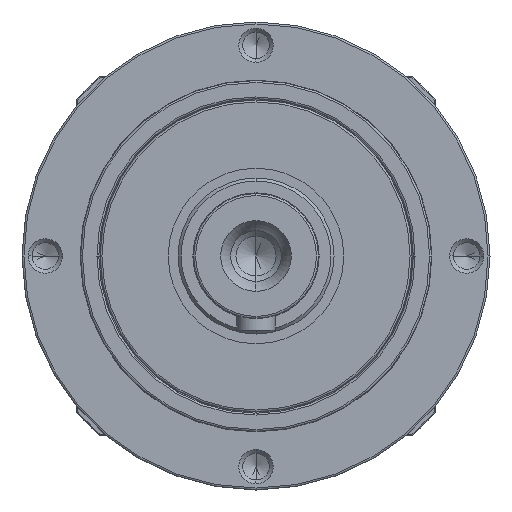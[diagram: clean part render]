
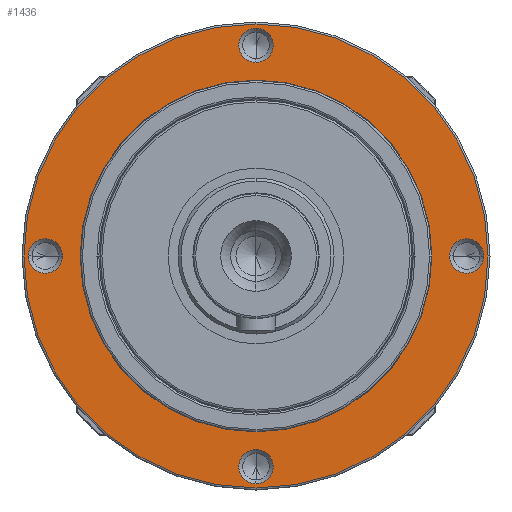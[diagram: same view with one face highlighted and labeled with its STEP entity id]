
A CAD part, left-side view. The second image highlights one B-rep face of the part: STEP entity #1436.
In plain terms, the highlighted planar face has unit normal (-1, 0, 0).
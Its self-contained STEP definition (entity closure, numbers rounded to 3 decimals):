
#252=CARTESIAN_POINT('',(7.,54.,0.));
#253=DIRECTION('',(1.,0.,0.));
#254=DIRECTION('',(0.,-1.,0.));
#255=AXIS2_PLACEMENT_3D('',#252,#253,#254);
#257=CARTESIAN_POINT('',(7.,54.,0.));
#258=DIRECTION('',(1.,0.,0.));
#259=DIRECTION('',(0.,1.,0.));
#260=AXIS2_PLACEMENT_3D('',#257,#258,#259);
#262=CARTESIAN_POINT('',(7.,0.,-54.));
#263=DIRECTION('',(1.,0.,0.));
#264=DIRECTION('',(0.,0.,-1.));
#265=AXIS2_PLACEMENT_3D('',#262,#263,#264);
#267=CARTESIAN_POINT('',(7.,0.,-54.));
#268=DIRECTION('',(1.,0.,0.));
#269=DIRECTION('',(0.,0.,1.));
#270=AXIS2_PLACEMENT_3D('',#267,#268,#269);
#272=CARTESIAN_POINT('',(7.,-54.,0.));
#273=DIRECTION('',(1.,0.,0.));
#274=DIRECTION('',(0.,-1.,0.));
#275=AXIS2_PLACEMENT_3D('',#272,#273,#274);
#277=CARTESIAN_POINT('',(7.,-54.,0.));
#278=DIRECTION('',(1.,0.,0.));
#279=DIRECTION('',(0.,1.,0.));
#280=AXIS2_PLACEMENT_3D('',#277,#278,#279);
#282=CARTESIAN_POINT('',(7.,0.,54.));
#283=DIRECTION('',(1.,0.,0.));
#284=DIRECTION('',(0.,0.,1.));
#285=AXIS2_PLACEMENT_3D('',#282,#283,#284);
#287=CARTESIAN_POINT('',(7.,0.,54.));
#288=DIRECTION('',(1.,0.,0.));
#289=DIRECTION('',(0.,0.,-1.));
#290=AXIS2_PLACEMENT_3D('',#287,#288,#289);
#292=CARTESIAN_POINT('',(7.,0.,0.));
#293=DIRECTION('',(1.,0.,0.));
#294=DIRECTION('',(0.,1.,0.));
#295=AXIS2_PLACEMENT_3D('',#292,#293,#294);
#297=CARTESIAN_POINT('',(7.,0.,0.));
#298=DIRECTION('',(1.,0.,0.));
#299=DIRECTION('',(0.,-1.,0.));
#300=AXIS2_PLACEMENT_3D('',#297,#298,#299);
#302=CARTESIAN_POINT('',(7.,0.,0.));
#303=DIRECTION('',(-1.,0.,0.));
#304=DIRECTION('',(0.,1.,0.));
#305=AXIS2_PLACEMENT_3D('',#302,#303,#304);
#307=CARTESIAN_POINT('',(7.,0.,0.));
#308=DIRECTION('',(-1.,0.,0.));
#309=DIRECTION('',(0.,-1.,0.));
#310=AXIS2_PLACEMENT_3D('',#307,#308,#309);
#901=CARTESIAN_POINT('',(7.,49.6,0.));
#902=CARTESIAN_POINT('',(7.,58.4,0.));
#903=VERTEX_POINT('',#901);
#904=VERTEX_POINT('',#902);
#905=CARTESIAN_POINT('',(7.,0.,-58.4));
#906=CARTESIAN_POINT('',(7.,0.,-49.6));
#907=VERTEX_POINT('',#905);
#908=VERTEX_POINT('',#906);
#909=CARTESIAN_POINT('',(7.,-58.4,0.));
#910=CARTESIAN_POINT('',(7.,-49.6,0.));
#911=VERTEX_POINT('',#909);
#912=VERTEX_POINT('',#910);
#913=CARTESIAN_POINT('',(7.,0.,
58.4));
#914=CARTESIAN_POINT('',(7.,0.,49.6));
#915=VERTEX_POINT('',#913);
#916=VERTEX_POINT('',#914);
#945=CARTESIAN_POINT('',(7.,59.5,0.));
#946=CARTESIAN_POINT('',(7.,-59.5,0.));
#947=VERTEX_POINT('',#945);
#948=VERTEX_POINT('',#946);
#965=CARTESIAN_POINT('',(7.,45.1,0.));
#966=CARTESIAN_POINT('',(7.,-45.1,0.));
#967=VERTEX_POINT('',#965);
#968=VERTEX_POINT('',#966);
#1396=CARTESIAN_POINT('',(7.,0.,0.));
#1397=DIRECTION('',(-1.,0.,0.));
#1398=DIRECTION('',(0.,1.,0.));
#1399=AXIS2_PLACEMENT_3D('',#1396,#1397,#1398);
#1400=PLANE('',#1399);
#1402=ORIENTED_EDGE('',*,*,#1401,.T.);
#1404=ORIENTED_EDGE('',*,*,#1403,.T.);
#1405=EDGE_LOOP('',(#1402,#1404));
#1406=FACE_OUTER_BOUND('',#1405,.F.);
#1408=ORIENTED_EDGE('',*,*,#1407,.F.);
#1410=ORIENTED_EDGE('',*,*,#1409,.F.);
#1411=EDGE_LOOP('',(#1408,#1410));
#1412=FACE_BOUND('',#1411,.F.);
#1414=ORIENTED_EDGE('',*,*,#1413,.F.);
#1416=ORIENTED_EDGE('',*,*,#1415,.F.);
#1417=EDGE_LOOP('',(#1414,#1416));
#1418=FACE_BOUND('',#1417,.F.);
#1420=ORIENTED_EDGE('',*,*,#1419,.F.);
#1422=ORIENTED_EDGE('',*,*,#1421,.F.);
#1423=EDGE_LOOP('',(#1420,#1422));
#1424=FACE_BOUND('',#1423,.F.);
#1426=ORIENTED_EDGE('',*,*,#1425,.F.);
#1428=ORIENTED_EDGE('',*,*,#1427,.F.);
#1429=EDGE_LOOP('',(#1426,#1428));
#1430=FACE_BOUND('',#1429,.F.);
#1432=ORIENTED_EDGE('',*,*,#1431,.T.);
#1433=ORIENTED_EDGE('',*,*,#1386,.T.);
#1434=EDGE_LOOP('',(#1432,#1433));
#1435=FACE_BOUND('',#1434,.F.);
#1436=ADVANCED_FACE('',(#1406,#1412,#1418,#1424,#1430,#1435),#1400,.T.);
#256=CIRCLE('',#255,4.4);
#261=CIRCLE('',#260,4.4);
#266=CIRCLE('',#265,4.4);
#271=CIRCLE('',#270,4.4);
#276=CIRCLE('',#275,4.4);
#281=CIRCLE('',#280,4.4);
#286=CIRCLE('',#285,4.4);
#291=CIRCLE('',#290,4.4);
#296=CIRCLE('',#295,59.5);
#301=CIRCLE('',#300,59.5);
#306=CIRCLE('',#305,45.1);
#311=CIRCLE('',#310,45.1);
#1386=EDGE_CURVE('',#968,#967,#311,.T.);
#1401=EDGE_CURVE('',#947,#948,#296,.T.);
#1403=EDGE_CURVE('',#948,#947,#301,.T.);
#1407=EDGE_CURVE('',#903,#904,#256,.T.);
#1409=EDGE_CURVE('',#904,#903,#261,.T.);
#1413=EDGE_CURVE('',#907,#908,#266,.T.);
#1415=EDGE_CURVE('',#908,#907,#271,.T.);
#1419=EDGE_CURVE('',#911,#912,#276,.T.);
#1421=EDGE_CURVE('',#912,#911,#281,.T.);
#1425=EDGE_CURVE('',#915,#916,#286,.T.);
#1427=EDGE_CURVE('',#916,#915,#291,.T.);
#1431=EDGE_CURVE('',#967,#968,#306,.T.);
